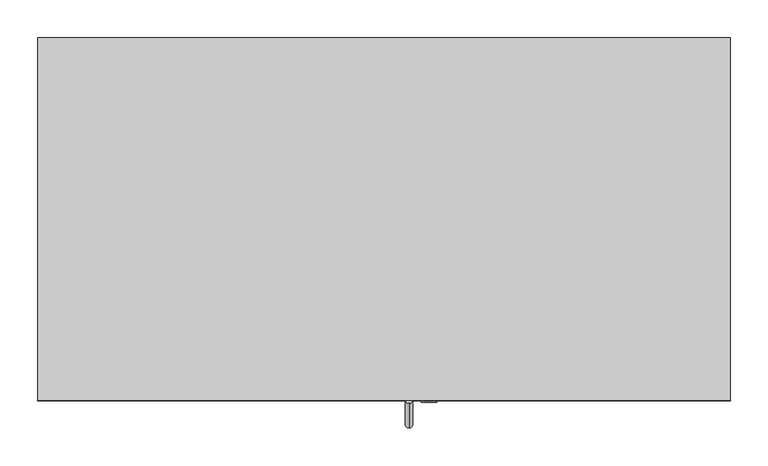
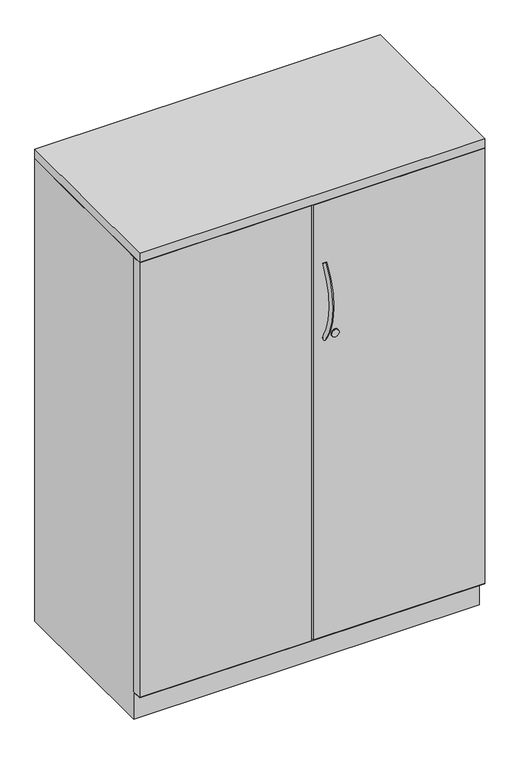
"""IFC4 building model written with IfcOpenShell, lengths in millimetres: furniture geometry, Steelcase - Universal Storage - Cabinet - Storage - 40H-52H - Proud Steel : 52H x 18D x 36W."""

from ifc_helpers import new_model, si_unit, point, frame, frame_2d, origin, place, context, project, spatial, polyline, circle_curve, ellipse_curve, trimmed, segment, composite_curve, outline, extrude, faceted_brep, source, transform, mapped, element, save
from ifc_brep_helpers import plane_surface, revolved_surface, advanced_brep


def furniture_3d1886b2(model_context):
    return source(origin(), model_context, "Body", "SolidModel", [
        extrude(outline(polyline([(914.4, 0.0), (914.4, -479.552), (0.0, -479.552), (0.0, 0.0), (914.4, 0.0)])), frame((0.0, 0.0, 1295.4), z_axis=(0.0, 0.0, 1.0), x_axis=(1.0, 0.0, 0.0)), (0.0, 0.0, 1.0), 25.4),
        extrude(outline(polyline([(0.0, -479.552), (0.0, -454.1528418), (454.66, -454.1528418), (454.66, -479.552), (0.0, -479.552)])), frame((0.0, 0.0, 77.724), z_axis=(0.0, 0.0, 1.0), x_axis=(1.0, 0.0, 0.0)), (0.0, 0.0, 1.0), 1216.152),
        extrude(outline(polyline([(914.4, -454.1528418), (914.4, -479.552), (459.74, -479.552), (459.74, -454.1528418), (914.4, -454.1528418)])), frame((0.0, 0.0, 77.724), z_axis=(0.0, 0.0, 1.0), x_axis=(1.0, 0.0, 0.0)), (0.0, 0.0, 1.0), 1216.152),
        extrude(outline(composite_curve([segment(trimmed(circle_curve(frame_2d((917.702, 516.7418131)), 10.16), [point((917.702, 526.9018131))], [point((917.702, 506.5818131))], False, "CARTESIAN"), True, "CONTINUOUS"), segment(trimmed(circle_curve(frame_2d((917.702, 516.7418131)), 10.16), [point((917.702, 506.5818131))], [point((917.702, 526.9018131))], False, "CARTESIAN"), True, "CONTINUOUS")], self_intersect=False)), frame((0.0, -481.965031, 0.0), z_axis=(0.0, 1.0, 0.0), x_axis=(0.0, 0.0, 1.0)), (0.0, 0.0, 1.0), 2.413031),
        advanced_brep(
        [(490.2783765, -474.9744318, 1119.7196018), (490.2783765, -483.5741633, 1125.3900503), (490.2783765, -472.5471581, 911.9931915), (490.2783765, -481.0120418, 906.1233437)],
        [
            (0, 1, circle_curve(frame((490.2783765, -479.2742976, 1122.5548261), z_axis=(0.0, 0.5504787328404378, 0.83484918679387), x_axis=(0.0, -0.83484918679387, 0.5504787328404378)), 5.1504701)),
            (1, 0, circle_curve(frame((490.2783765, -479.2742976, 1122.5548261), z_axis=(0.0, 0.5504787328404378, 0.83484918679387), x_axis=(0.0, -0.83484918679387, 0.5504787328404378)), 5.1504701)),
            (2, 3, circle_curve(frame((490.2783765, -476.7796, 909.0582676), z_axis=(0.0, 0.5698361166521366, -0.8217583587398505), x_axis=(0.0, -0.8217583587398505, -0.5698361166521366)), 5.1504701)),
            (3, 2, circle_curve(frame((490.2783765, -476.7796, 909.0582676), z_axis=(0.0, 0.5698361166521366, -0.8217583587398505), x_axis=(0.0, -0.8217583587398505, -0.5698361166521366)), 5.1504701)),
            (3, 1, circle_curve(frame((490.2783765, -320.178461, 1017.6509992), z_axis=(-1.0, 0.0, 0.0), x_axis=(0.0, -0.83484918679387, 0.5504787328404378)), 195.7188256)),
            (0, 2, circle_curve(frame((490.2783765, -320.178461, 1017.6509992), z_axis=(1.0, 0.0, 0.0), x_axis=(0.0, -0.83484918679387, 0.5504787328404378)), 185.4178854)),
        ],
        [
            plane_surface(frame((490.2783765, -479.2742976, 1122.5548261), z_axis=(0.0, 0.5504787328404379, 0.83484918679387), x_axis=(-1.0, 0.0, 0.0))),
            plane_surface(frame((490.2783765, -476.7796, 909.0582676), z_axis=(0.0, 0.5698361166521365, -0.8217583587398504), x_axis=(-1.0, 0.0, 0.0))),
            revolved_surface(trimmed(ellipse_curve(frame((490.2783765, -479.2742976, 1122.5548261), z_axis=(0.0, 0.5504787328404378, 0.83484918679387), x_axis=(0.0, -0.83484918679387, 0.5504787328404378)), 5.1504701, 5.1504701), [point((490.2783765, -474.9744318, 1119.7196018))], [point((490.2783765, -483.5741633, 1125.3900503))], True, "CARTESIAN"), (490.2783765, -320.178461, 1017.6509992), (1.0, 0.0, 0.0)),
            revolved_surface(trimmed(ellipse_curve(frame((490.2783765, -479.2742976, 1122.5548261), z_axis=(0.0, 0.5504787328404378, 0.83484918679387), x_axis=(0.0, -0.83484918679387, 0.5504787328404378)), 5.1504701, 5.1504701), [point((490.2783765, -483.5741633, 1125.3900503))], [point((490.2783765, -474.9744318, 1119.7196018))], True, "CARTESIAN"), (490.2783765, -320.178461, 1017.6509992), (1.0, 0.0, 0.0)),
        ],
        [
            (0, [[1, 2]]),
            (1, [[3, 4]]),
            (2, [[5, -1, 6, -4]]),
            (3, [[-6, -2, -5, -3]]),
        ],
    ),
        extrude(outline(composite_curve([segment(trimmed(circle_curve(frame_2d((919.3669832, 517.0109835)), 9.7167829), [point((919.3669832, 526.7277664))], [point((919.3669832, 507.2942006))], False, "CARTESIAN"), True, "CONTINUOUS"), segment(trimmed(circle_curve(frame_2d((919.3669832, 517.0109835)), 9.7167829), [point((919.3669832, 507.2942006))], [point((919.3669832, 526.7277664))], False, "CARTESIAN"), True, "CONTINUOUS")], self_intersect=False)), frame((0.0, -480.2215275, 0.0), z_axis=(0.0, 1.0, 0.0), x_axis=(0.0, 0.0, 1.0)), (0.0, 0.0, 1.0), 0.6695275),
        faceted_brep([(914.4, 0.0, 0.0), (914.4, -452.6288432, 0.0), (0.0, -452.6288432, 0.0), (0.0, 0.0, 0.0), (0.0, 0.0, 1293.876), (914.4, 0.0, 1293.876), (0.0, -452.6288432, 76.2), (0.0, -479.552, 76.2), (0.0, -479.552, 77.724), (0.0, -452.6288432, 77.724), (0.0, -452.6288432, 1293.876), (914.4, -452.6288432, 76.2), (914.4, -452.6288432, 1293.876), (914.4, -452.6288432, 77.724), (914.4, -479.4258418, 77.724), (914.4, -479.552, 76.2), (889.0000242, -25.4000008, 1293.876), (889.0000242, -452.6288432, 1293.876), (25.3999758, -452.6288432, 1293.876), (25.3999758, -25.4000008, 1293.876), (889.0000242, -25.4000008, 77.724), (889.0000242, -452.6288432, 77.724), (25.3999758, -452.6288432, 77.724), (25.3999758, -25.4000008, 77.724), (4.6981334, -454.1528418, 77.724), (889.0000242, -454.1528418, 77.724)], [[[0, 1, 2, 3]], [[0, 3, 4, 5]], [[4, 3, 2, 6, 7, 8, 9, 10]], [[2, 1, 11, 6]], [[1, 0, 5, 12, 13, 14, 15, 11]], [[16, 17, 12, 5, 4, 10, 18, 19]], [[17, 16, 20, 21]], [[12, 17, 21, 13]], [[18, 10, 9, 22]], [[19, 18, 22, 23]], [[16, 19, 23, 20]], [[8, 24, 25, 14, 13, 21, 20, 23, 22, 9]], [[15, 7, 6, 11]], [[24, 8, 7]], [[25, 24, 7, 15]], [[14, 25, 15]]]),
    ])


if __name__ == "__main__":
    model = new_model("IFC4")
    model_context = context("Model", 3, world=origin())
    ifc_project = project(units=[si_unit("LENGTHUNIT", "METRE", prefix="MILLI")], contexts=[model_context])
    site = spatial("IfcSite", under=ifc_project)
    building = spatial("IfcBuilding", under=site)
    placement = place(None, origin())
    furniture_shape = furniture_3d1886b2(model_context)
    element("IfcFurniture", 1, ObjectType="Steelcase - Universal Storage - Cabinet - Storage - 40H-52H - Proud Steel : 52H x 18D x 36W", at=placement, inside=building, context=model_context, shape_type="MappedRepresentation", body=[
        mapped(furniture_shape, transform((0.0, 0.0, 0.0), x_axis=(1.0, 0.0, 0.0), y_axis=(0.0, 1.0, 0.0), z_axis=(0.0, 0.0, 1.0))),
    ])
    save(model, "model.ifc")
